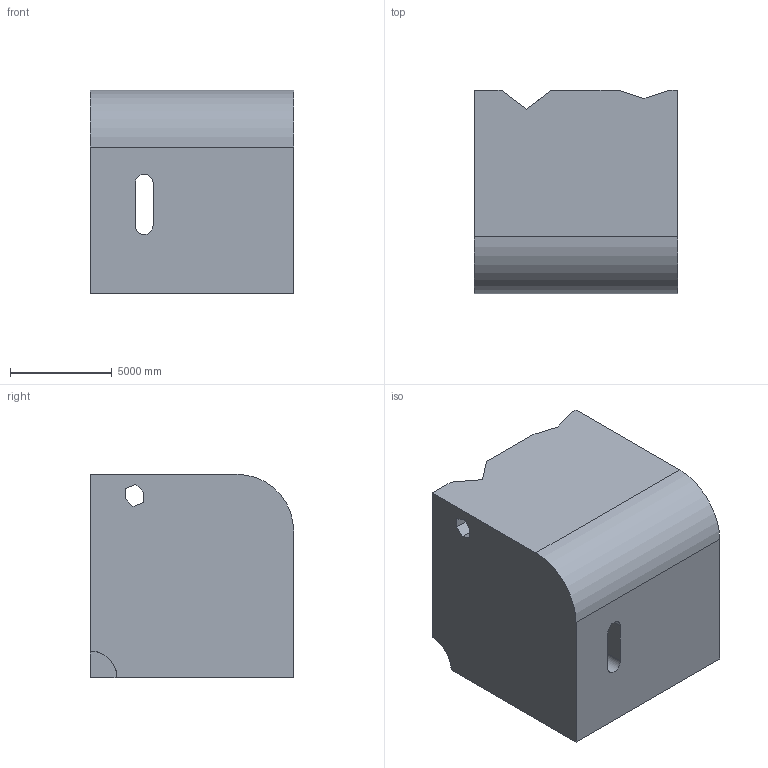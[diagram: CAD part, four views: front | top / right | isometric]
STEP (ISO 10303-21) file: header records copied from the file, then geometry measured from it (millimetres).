
FILE_DESCRIPTION (( 'STEP AP203' ), '1' );
FILE_NAME ('65.STEP', '2022-09-01T11:53:14', ( 'user' ), ( '' ), 'SwSTEP 2.0', 'SolidWorks 2021', '' );
FILE_SCHEMA (( 'CONFIG_CONTROL_DESIGN' ));
Length unit declared in the file: centimetre
Products named in the file (1): 65
Bounding box: 10000 x 10000 x 10000 mm (x, y, z)
Volume: 927570191239.7 mm3; surface area: 685858657.8 mm2
Topology: 1 solids, 1 shells, 31 faces, 90 edges, 60 vertices
Faces by surface type: plane 26, cylinder 5
Entity records: 1098 total; most frequent: CARTESIAN_POINT 203, ORIENTED_EDGE 180, DIRECTION 156, EDGE_CURVE 90, LINE 74, VECTOR 74, VERTEX_POINT 60, AXIS2_PLACEMENT_3D 41
